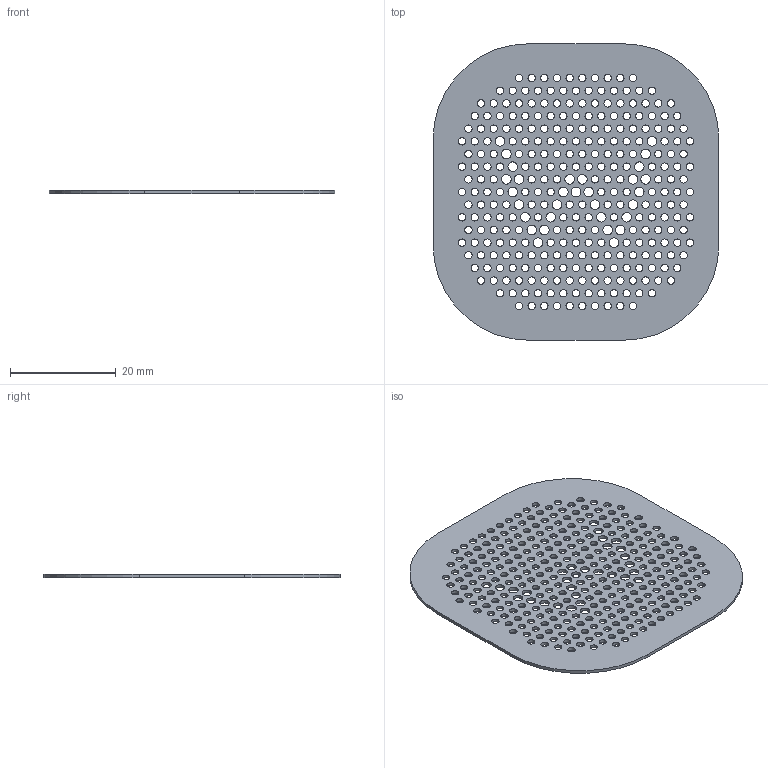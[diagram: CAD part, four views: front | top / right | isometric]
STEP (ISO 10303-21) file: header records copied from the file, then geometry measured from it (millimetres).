
FILE_DESCRIPTION(('Open CASCADE Model'),'2;1');
FILE_NAME('Open CASCADE Shape Model','2026-09-08T13:32:07',('Author'),( 'Open CASCADE'),'Open CASCADE STEP processor 7.7','Open CASCADE 7.7' ,'Unknown');
FILE_SCHEMA(('AUTOMOTIVE_DESIGN { 1 0 10303 214 1 1 1 1 }'));
Length unit declared in the file: millimetre
Products named in the file (1): Open CASCADE STEP translator 7.7 17
Bounding box: 54.2 x 56.2 x 0.6 mm (x, y, z)
Volume: 1349.2 mm3; surface area: 5466 mm2
Topology: 1 solids, 1 shells, 325 faces, 969 edges, 646 vertices
Faces by surface type: cylinder 319, plane 6
Full cylindrical faces by diameter (mm): 1.4 x284, 1.8 x31
Entity records: 27090 total; most frequent: CARTESIAN_POINT 7683, DIRECTION 3563, ORIENTED_EDGE 1938, PCURVE 1938, DEFINITIONAL_REPRESENTATION 1938, LINE 1631, VECTOR 1631, EDGE_CURVE 969
